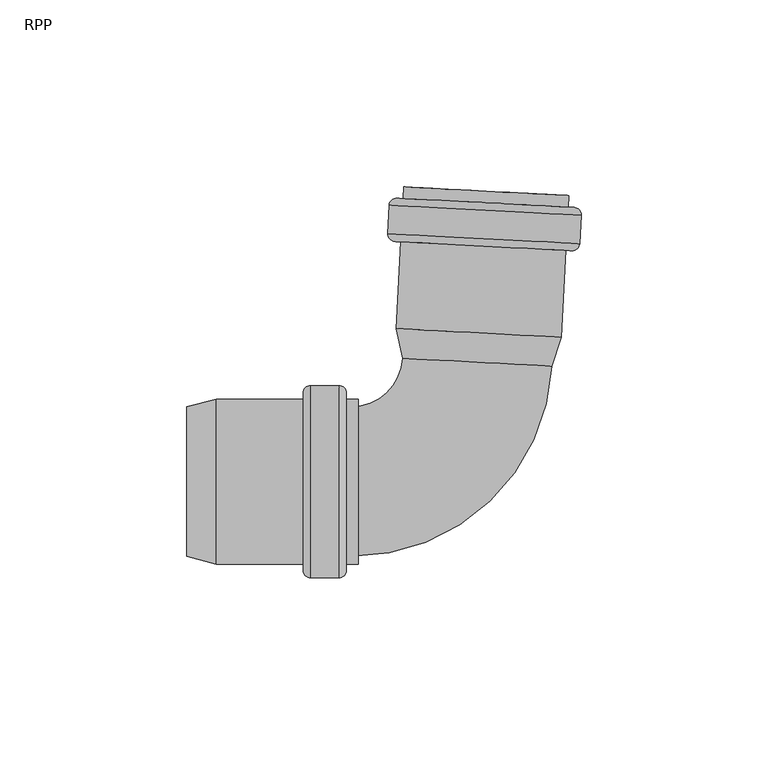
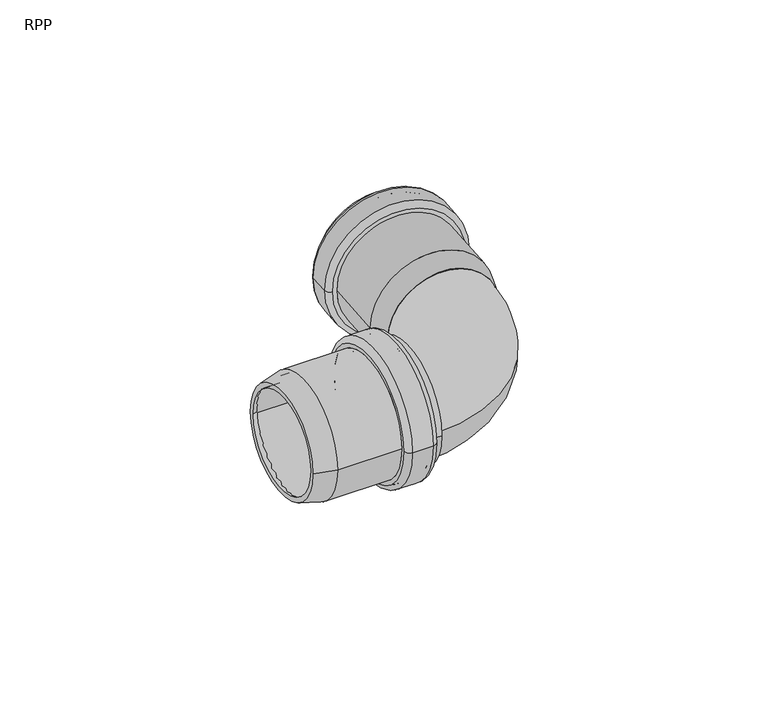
"""IFC4 building model written with IfcOpenShell, lengths in millimetres: pipe fitting geometry, RAUPIANO PLUS Bend : RPP."""

from ifc_helpers import new_model, si_unit, point, frame, origin, place, context, project, spatial, polyline, circle_curve, ellipse_curve, trimmed, source, transform, mapped, element, save
from ifc_brep_helpers import plane_surface, cylinder_surface, revolved_surface, advanced_brep


def rpp_bc04890f(model_context):
    return source(origin(), model_context, "Body", "AdvancedBrep", [
        advanced_brep(
        [(-43.1, -20.3, 0.0), (-43.1, 20.3, 0.0), (-67.9257188, 20.3, 0.0), (-67.9257188, -20.3, 0.0), (-42.6, -23.9, 0.0), (-42.6, 23.9, 0.0), (-43.1, 23.4, 0.0), (-43.1, -23.4, 0.0), (-35.6, -23.9, 0.0), (-35.6, 23.9, 0.0), (-35.1, -23.4, 0.0), (-35.1, 23.4, 0.0), (-30.2, -20.3, 0.0), (-30.2, 20.3, 0.0), (-35.1, 20.3, 0.0), (-35.1, -20.3, 0.0), (-33.3, -22.1, 0.0), (-33.3, 22.1, 0.0), (-30.2, 22.1, 0.0), (-30.2, -22.1, 0.0), (-35.3, -25.7, 0.0), (-35.3, 25.7, 0.0), (-33.3, 23.7, 0.0), (-33.3, -23.7, 0.0), (-42.9, -25.7, 0.0), (-42.9, 25.7, 0.0), (-44.9, -23.7, 0.0), (-44.9, 23.7, 0.0), (-68.1626933, -22.1, 0.0), (-68.1626933, 22.1, 0.0), (-44.9, 22.1, 0.0), (-44.9, -22.1, 0.0), (-76.0, -20.0, 0.0), (-76.0, 20.0, 0.0), (-76.0, 18.1365029, 0.0), (-76.0, -18.1365029, 0.0)],
        [
            (0, 1, circle_curve(frame((-43.1, 0.0, 0.0), z_axis=(1.0, 0.0, 0.0), x_axis=(0.0, 1.0, 0.0)), 20.3)),
            (1, 2),
            (2, 3, circle_curve(frame((-67.9257188, 0.0, 0.0), z_axis=(-1.0, 0.0, 0.0), x_axis=(0.0, 1.0, 0.0)), 20.3)),
            (3, 0),
            (4, 5, circle_curve(frame((-42.6, 0.0, 0.0), z_axis=(1.0, 0.0, 0.0), x_axis=(0.0, 1.0, 0.0)), 23.9)),
            (5, 6, circle_curve(frame((-42.6, 23.4, 0.0), z_axis=(0.0, 0.0, 1.0), x_axis=(0.0, -1.0, 0.0)), 0.5)),
            (6, 7, circle_curve(frame((-43.1, 0.0, 0.0), z_axis=(-1.0, 0.0, 0.0), x_axis=(0.0, 1.0, 0.0)), 23.4)),
            (7, 4, circle_curve(frame((-42.6, -23.4, 0.0), z_axis=(0.0, 0.0, 1.0), x_axis=(0.0, 1.0, 0.0)), 0.5)),
            (8, 9, circle_curve(frame((-35.6, 0.0, 0.0), z_axis=(1.0, 0.0, 0.0), x_axis=(0.0, 1.0, 0.0)), 23.9)),
            (9, 5),
            (4, 8),
            (10, 11, circle_curve(frame((-35.1, 0.0, 0.0), z_axis=(1.0, 0.0, 0.0), x_axis=(0.0, 1.0, 0.0)), 23.4)),
            (11, 9, circle_curve(frame((-35.6, 23.4, 0.0), z_axis=(0.0, 0.0, 1.0), x_axis=(0.0, -1.0, 0.0)), 0.5)),
            (8, 10, circle_curve(frame((-35.6, -23.4, 0.0), z_axis=(0.0, 0.0, 1.0), x_axis=(0.0, 1.0, 0.0)), 0.5)),
            (12, 13, circle_curve(frame((-30.2, 0.0, 0.0), z_axis=(1.0, 0.0, 0.0), x_axis=(0.0, 1.0, 0.0)), 20.3)),
            (13, 14),
            (14, 15, circle_curve(frame((-35.1, 0.0, 0.0), z_axis=(-1.0, 0.0, 0.0), x_axis=(0.0, 1.0, 0.0)), 20.3)),
            (15, 12),
            (16, 17, circle_curve(frame((-33.3, 0.0, 0.0), z_axis=(1.0, 0.0, 0.0), x_axis=(0.0, 1.0, 0.0)), 22.1)),
            (17, 18),
            (18, 19, circle_curve(frame((-30.2, 0.0, 0.0), z_axis=(-1.0, 0.0, 0.0), x_axis=(0.0, 1.0, 0.0)), 22.1)),
            (19, 16),
            (20, 21, circle_curve(frame((-35.3, 0.0, 0.0), z_axis=(1.0, 0.0, 0.0), x_axis=(0.0, 1.0, 0.0)), 25.7)),
            (21, 22, circle_curve(frame((-35.3, 23.7, 0.0), z_axis=(0.0, 0.0, -1.0), x_axis=(0.0, -1.0, 0.0)), 2.0)),
            (22, 23, circle_curve(frame((-33.3, 0.0, 0.0), z_axis=(-1.0, 0.0, 0.0), x_axis=(0.0, 1.0, 0.0)), 23.7)),
            (23, 20, circle_curve(frame((-35.3, -23.7, 0.0), z_axis=(0.0, 0.0, -1.0), x_axis=(0.0, 1.0, 0.0)), 2.0)),
            (24, 25, circle_curve(frame((-42.9, 0.0, 0.0), z_axis=(1.0, 0.0, 0.0), x_axis=(0.0, 1.0, 0.0)), 25.7)),
            (25, 21),
            (20, 24),
            (26, 27, circle_curve(frame((-44.9, 0.0, 0.0), z_axis=(1.0, 0.0, 0.0), x_axis=(0.0, 1.0, 0.0)), 23.7)),
            (27, 25, circle_curve(frame((-42.9, 23.7, 0.0), z_axis=(0.0, 0.0, -1.0), x_axis=(0.0, -1.0, 0.0)), 2.0)),
            (24, 26, circle_curve(frame((-42.9, -23.7, 0.0), z_axis=(0.0, 0.0, -1.0), x_axis=(0.0, 1.0, 0.0)), 2.0)),
            (28, 29, circle_curve(frame((-68.1626933, 0.0, 0.0), z_axis=(1.0, 0.0, 0.0), x_axis=(0.0, 1.0, 0.0)), 22.1)),
            (29, 30),
            (30, 31, circle_curve(frame((-44.9, 0.0, 0.0), z_axis=(-1.0, 0.0, 0.0), x_axis=(0.0, 1.0, 0.0)), 22.1)),
            (31, 28),
            (32, 33, circle_curve(frame((-76.0, 0.0, 0.0), z_axis=(1.0, 0.0, 0.0), x_axis=(0.0, 1.0, 0.0)), 20.0)),
            (33, 29),
            (28, 32),
            (2, 34),
            (34, 35, circle_curve(frame((-76.0, 0.0, 0.0), z_axis=(-1.0, 0.0, 0.0), x_axis=(0.0, 1.0, 0.0)), 18.1365029)),
            (35, 3),
            (1, 0, circle_curve(frame((-43.1, 0.0, 0.0), z_axis=(1.0, 0.0, 0.0), x_axis=(0.0, -1.0, 0.0)), 20.3)),
            (3, 2, circle_curve(frame((-67.9257188, 0.0, 0.0), z_axis=(-1.0, 0.0, 0.0), x_axis=(0.0, -1.0, 0.0)), 20.3)),
            (6, 7, circle_curve(frame((-43.1, 0.0, 0.0), z_axis=(1.0, 0.0, 0.0), x_axis=(0.0, -1.0, 0.0)), 23.4)),
            (5, 4, circle_curve(frame((-42.6, 0.0, 0.0), z_axis=(1.0, 0.0, 0.0), x_axis=(0.0, -1.0, 0.0)), 23.9)),
            (9, 8, circle_curve(frame((-35.6, 0.0, 0.0), z_axis=(1.0, 0.0, 0.0), x_axis=(0.0, -1.0, 0.0)), 23.9)),
            (11, 10, circle_curve(frame((-35.1, 0.0, 0.0), z_axis=(1.0, 0.0, 0.0), x_axis=(0.0, -1.0, 0.0)), 23.4)),
            (14, 15, circle_curve(frame((-35.1, 0.0, 0.0), z_axis=(1.0, 0.0, 0.0), x_axis=(0.0, -1.0, 0.0)), 20.3)),
            (13, 12, circle_curve(frame((-30.2, 0.0, 0.0), z_axis=(1.0, 0.0, 0.0), x_axis=(0.0, -1.0, 0.0)), 20.3)),
            (18, 19, circle_curve(frame((-30.2, 0.0, 0.0), z_axis=(1.0, 0.0, 0.0), x_axis=(0.0, -1.0, 0.0)), 22.1)),
            (17, 16, circle_curve(frame((-33.3, 0.0, 0.0), z_axis=(1.0, 0.0, 0.0), x_axis=(0.0, -1.0, 0.0)), 22.1)),
            (22, 23, circle_curve(frame((-33.3, 0.0, 0.0), z_axis=(1.0, 0.0, 0.0), x_axis=(0.0, -1.0, 0.0)), 23.7)),
            (21, 20, circle_curve(frame((-35.3, 0.0, 0.0), z_axis=(1.0, 0.0, 0.0), x_axis=(0.0, -1.0, 0.0)), 25.7)),
            (25, 24, circle_curve(frame((-42.9, 0.0, 0.0), z_axis=(1.0, 0.0, 0.0), x_axis=(0.0, -1.0, 0.0)), 25.7)),
            (27, 26, circle_curve(frame((-44.9, 0.0, 0.0), z_axis=(1.0, 0.0, 0.0), x_axis=(0.0, -1.0, 0.0)), 23.7)),
            (30, 31, circle_curve(frame((-44.9, 0.0, 0.0), z_axis=(1.0, 0.0, 0.0), x_axis=(0.0, -1.0, 0.0)), 22.1)),
            (29, 28, circle_curve(frame((-68.1626933, 0.0, 0.0), z_axis=(1.0, 0.0, 0.0), x_axis=(0.0, -1.0, 0.0)), 22.1)),
            (33, 32, circle_curve(frame((-76.0, 0.0, 0.0), z_axis=(1.0, 0.0, 0.0), x_axis=(0.0, -1.0, 0.0)), 20.0)),
            (34, 35, circle_curve(frame((-76.0, 0.0, 0.0), z_axis=(1.0, 0.0, 0.0), x_axis=(0.0, -1.0, 0.0)), 18.1365029)),
        ],
        [
            revolved_surface(polyline([(-67.9257188, 20.3, 0.0), (-43.1, 20.3, 0.0)]), (-76.0, 0.0, 0.0), (-1.0, 0.0, 0.0)),
            revolved_surface(trimmed(ellipse_curve(frame((-42.6, 23.4, 0.0), z_axis=(0.0, 0.0, -1.0), x_axis=(0.0, -1.0, 0.0)), 0.5, 0.5), [point((-43.1, 23.4, 0.0))], [point((-42.6, 23.9, 0.0))], True, "CARTESIAN"), (-76.0, 0.0, 0.0), (-1.0, 0.0, 0.0)),
            revolved_surface(polyline([(-42.6, 23.9, 0.0), (-35.6, 23.9, 0.0)]), (-76.0, 0.0, 0.0), (-1.0, 0.0, 0.0)),
            revolved_surface(trimmed(ellipse_curve(frame((-35.6, 23.4, 0.0), z_axis=(0.0, 0.0, -1.0), x_axis=(0.0, -1.0, 0.0)), 0.5, 0.5), [point((-35.6, 23.9, 0.0))], [point((-35.1, 23.4, 0.0))], True, "CARTESIAN"), (-76.0, 0.0, 0.0), (-1.0, 0.0, 0.0)),
            revolved_surface(polyline([(-35.1, 20.3, 0.0), (-30.200000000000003, 20.3, 0.0)]), (-76.0, 0.0, 0.0), (-1.0, 0.0, 0.0)),
            cylinder_surface(frame((-76.0, 0.0, 0.0), z_axis=(-1.0, 0.0, 0.0), x_axis=(0.0, 1.0, 0.0)), 22.1),
            revolved_surface(trimmed(ellipse_curve(frame((-35.3, 23.7, 0.0), z_axis=(0.0, 0.0, 1.0), x_axis=(0.0, -1.0, 0.0)), 2.0, 2.0), [point((-33.3, 23.7, 0.0))], [point((-35.3, 25.7, 0.0))], True, "CARTESIAN"), (-76.0, 0.0, 0.0), (-1.0, 0.0, 0.0)),
            cylinder_surface(frame((-76.0, 0.0, 0.0), z_axis=(-1.0, 0.0, 0.0), x_axis=(0.0, 1.0, 0.0)), 25.7),
            revolved_surface(trimmed(ellipse_curve(frame((-42.9, 23.7, 0.0), z_axis=(0.0, 0.0, 1.0), x_axis=(0.0, -1.0, 0.0)), 2.0, 2.0), [point((-42.9, 25.7, 0.0))], [point((-44.9, 23.7, 0.0))], True, "CARTESIAN"), (-76.0, 0.0, 0.0), (-1.0, 0.0, 0.0)),
            revolved_surface(polyline([(-68.1626933, 22.1, 0.0), (-76.0, 20.0, 0.0)]), (-76.0, 0.0, 0.0), (-1.0, 0.0, 0.0)),
            revolved_surface(polyline([(-76.0, 18.1365029, 0.0), (-67.9257188, 20.3, 0.0)]), (-76.0, 0.0, 0.0), (-1.0, 0.0, 0.0)),
            revolved_surface(polyline([(-67.9257188, -20.3, 0.0), (-43.1, -20.3, 0.0)]), (-76.0, 0.0, 0.0), (-1.0, 0.0, 0.0)),
            plane_surface(frame((-43.1, 0.0, 0.0), z_axis=(1.0, 0.0, 0.0), x_axis=(0.0, -1.0, 0.0))),
            revolved_surface(trimmed(ellipse_curve(frame((-42.6, -23.4, 0.0), z_axis=(0.0, 0.0, 1.0), x_axis=(0.0, 1.0, 0.0)), 0.5, 0.5), [point((-43.1, -23.4, 0.0))], [point((-42.6, -23.9, 0.0))], True, "CARTESIAN"), (-76.0, 0.0, 0.0), (-1.0, 0.0, 0.0)),
            revolved_surface(polyline([(-42.6, -23.9, 0.0), (-35.6, -23.9, 0.0)]), (-76.0, 0.0, 0.0), (-1.0, 0.0, 0.0)),
            revolved_surface(trimmed(ellipse_curve(frame((-35.6, -23.4, 0.0), z_axis=(0.0, 0.0, 1.0), x_axis=(0.0, 1.0, 0.0)), 0.5, 0.5), [point((-35.6, -23.9, 0.0))], [point((-35.1, -23.4, 0.0))], True, "CARTESIAN"), (-76.0, 0.0, 0.0), (-1.0, 0.0, 0.0)),
            plane_surface(frame((-35.1, 0.0, 0.0), z_axis=(-1.0, 0.0, 0.0), x_axis=(0.0, -1.0, 0.0))),
            revolved_surface(polyline([(-35.1, -20.3, 0.0), (-30.200000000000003, -20.3, 0.0)]), (-76.0, 0.0, 0.0), (-1.0, 0.0, 0.0)),
            plane_surface(frame((-30.2, 0.0, 0.0), z_axis=(1.0, 0.0, 0.0), x_axis=(0.0, -1.0, 0.0))),
            cylinder_surface(frame((-76.0, 0.0, 0.0), z_axis=(-1.0, 0.0, 0.0), x_axis=(0.0, -1.0, 0.0)), 22.1),
            plane_surface(frame((-33.3, 0.0, 0.0), z_axis=(1.0, 0.0, 0.0), x_axis=(0.0, -1.0, 0.0))),
            revolved_surface(trimmed(ellipse_curve(frame((-35.3, -23.7, 0.0), z_axis=(0.0, 0.0, -1.0), x_axis=(0.0, 1.0, 0.0)), 2.0, 2.0), [point((-33.3, -23.7, 0.0))], [point((-35.3, -25.7, 0.0))], True, "CARTESIAN"), (-76.0, 0.0, 0.0), (-1.0, 0.0, 0.0)),
            cylinder_surface(frame((-76.0, 0.0, 0.0), z_axis=(-1.0, 0.0, 0.0), x_axis=(0.0, -1.0, 0.0)), 25.7),
            revolved_surface(trimmed(ellipse_curve(frame((-42.9, -23.7, 0.0), z_axis=(0.0, 0.0, -1.0), x_axis=(0.0, 1.0, 0.0)), 2.0, 2.0), [point((-42.9, -25.7, 0.0))], [point((-44.9, -23.7, 0.0))], True, "CARTESIAN"), (-76.0, 0.0, 0.0), (-1.0, 0.0, 0.0)),
            plane_surface(frame((-44.9, 0.0, 0.0), z_axis=(-1.0, 0.0, 0.0), x_axis=(0.0, -1.0, 0.0))),
            revolved_surface(polyline([(-68.1626933, -22.1, 0.0), (-76.0, -20.0, 0.0)]), (-76.0, 0.0, 0.0), (-1.0, 0.0, 0.0)),
            plane_surface(frame((-76.0, 0.0, 0.0), z_axis=(-1.0, 0.0, 0.0), x_axis=(0.0, -1.0, 0.0))),
            revolved_surface(polyline([(-76.0, -18.1365029, 0.0), (-67.9257188, -20.3, 0.0)]), (-76.0, 0.0, 0.0), (-1.0, 0.0, 0.0)),
        ],
        [
            (0, [[1, 2, 3, 4]]),
            (1, [[5, 6, 7, 8]]),
            (2, [[9, 10, -5, 11]]),
            (3, [[12, 13, -9, 14]]),
            (4, [[15, 16, 17, 18]]),
            (5, [[19, 20, 21, 22]]),
            (6, [[23, 24, 25, 26]]),
            (7, [[27, 28, -23, 29]]),
            (8, [[30, 31, -27, 32]]),
            (5, [[33, 34, 35, 36]]),
            (9, [[37, 38, -33, 39]]),
            (10, [[-3, 40, 41, 42]]),
            (11, [[43, -4, 44, -2]]),
            (12, [[45, -7], [-43, -1]]),
            (13, [[46, -8, -45, -6]]),
            (14, [[47, -11, -46, -10]]),
            (15, [[48, -14, -47, -13]]),
            (16, [[-48, -12], [49, -17]]),
            (17, [[50, -18, -49, -16]]),
            (18, [[51, -21], [-50, -15]]),
            (19, [[52, -22, -51, -20]]),
            (20, [[53, -25], [-52, -19]]),
            (21, [[54, -26, -53, -24]]),
            (22, [[55, -29, -54, -28]]),
            (23, [[56, -32, -55, -31]]),
            (24, [[-56, -30], [57, -35]]),
            (19, [[58, -36, -57, -34]]),
            (25, [[59, -39, -58, -38]]),
            (26, [[-59, -37], [60, -41]]),
            (27, [[-44, -42, -60, -40]]),
        ],
    ),
        advanced_brep(
        [(19.786398, 31.0069539, 0.0), (-16.4368968, 32.9053363, 0.0), (-18.1748537, 41.0817807, 0.0), (22.3695054, 38.9569409, 0.0), (24.1546363, 38.6260864, 0.0), (-19.9847892, 40.9393357, 0.0), (-18.2978401, 33.0028642, 0.0), (21.6473413, 30.909426, 0.0), (25.3721116, 61.856899, 0.0), (-18.7673139, 64.1701483, 0.0), (29.4696031, 71.2553331, 0.0), (-21.859955, 73.9454013, 0.0), (-22.2577083, 66.3558168, 0.0), (29.0718498, 63.6657486, 0.0), (26.1414501, 76.5367532, 0.0), (-17.9979753, 78.8500024, 0.0), (-18.1602168, 75.7542509, 0.0), (25.9792086, 73.4410016, 0.0), (24.0874708, 71.7376732, 0.0), (-16.4568883, 73.862513, 0.0), (-16.2004422, 78.7557977, 0.0), (24.343917, 76.6309579, 0.0), (27.2900174, 64.0595422, 0.0), (-20.4444743, 66.5612009, 0.0), (-20.0781226, 73.5516077, 0.0), (27.6563691, 71.049949, 0.0), (-16.875576, 65.8734767, 0.0), (23.6687831, 63.7486369, 0.0), (-20.3651211, 64.2538858, 0.0), (26.9699188, 61.7731615, 0.0), (27.5770159, 73.3572641, 0.0), (-19.758024, 75.8379884, 0.0), (-19.5526399, 74.0247545, 0.0), (27.1832223, 71.5754317, 0.0), (26.7645347, 63.5863954, 0.0), (-19.9713276, 66.0357182, 0.0)],
        [
            (0, 1, circle_curve(frame((1.6747506, 31.9561451, 0.0), z_axis=(-0.05233595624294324, -0.9986295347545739, 0.0), x_axis=(-0.9986295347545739, 0.05233595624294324, 0.0)), 18.1365029)),
            (1, 2),
            (2, 3, circle_curve(frame((2.0973258, 40.0193608, 0.0), z_axis=(0.05233595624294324, 0.9986295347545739, 0.0), x_axis=(-0.9986295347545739, 0.05233595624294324, 0.0)), 20.3)),
            (3, 0),
            (4, 5, circle_curve(frame((2.0849235, 39.7827111, 0.0), z_axis=(-0.05233595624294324, -0.9986295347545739, 0.0), x_axis=(-0.9986295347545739, 0.05233595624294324, 0.0)), 22.1)),
            (5, 6),
            (6, 7, circle_curve(frame((1.6747506, 31.9561451, 0.0), z_axis=(0.05233595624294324, 0.9986295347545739, 0.0), x_axis=(-0.9986295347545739, 0.05233595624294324, 0.0)), 20.0)),
            (7, 4),
            (8, 9, circle_curve(frame((3.3023988, 63.0135236, 0.0), z_axis=(-0.05233595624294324, -0.9986295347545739, 0.0), x_axis=(-0.9986295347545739, 0.05233595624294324, 0.0)), 22.1)),
            (9, 5),
            (4, 8),
            (10, 11, circle_curve(frame((3.804824, 72.6003672, 0.0), z_axis=(-0.05233595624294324, -0.9986295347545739, 0.0), x_axis=(-0.9986295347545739, 0.05233595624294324, 0.0)), 25.7)),
            (11, 12),
            (12, 13, circle_curve(frame((3.4070708, 65.0107827, 0.0), z_axis=(0.05233595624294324, 0.9986295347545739, 0.0), x_axis=(-0.9986295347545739, 0.05233595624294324, 0.0)), 25.7)),
            (13, 10),
            (14, 15, circle_curve(frame((4.0717374, 77.6933778, 0.0), z_axis=(-0.05233595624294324, -0.9986295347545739, 0.0), x_axis=(-0.9986295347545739, 0.05233595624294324, 0.0)), 22.1)),
            (15, 16),
            (16, 17, circle_curve(frame((3.9094959, 74.5976262, 0.0), z_axis=(0.05233595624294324, 0.9986295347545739, 0.0), x_axis=(-0.9986295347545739, 0.05233595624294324, 0.0)), 22.1)),
            (17, 14),
            (18, 19, circle_curve(frame((3.8152912, 72.8000931, 0.0), z_axis=(-0.05233595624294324, -0.9986295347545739, 0.0), x_axis=(-0.9986295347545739, 0.05233595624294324, 0.0)), 20.3)),
            (19, 20),
            (20, 21, circle_curve(frame((4.0717374, 77.6933778, 0.0), z_axis=(0.05233595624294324, 0.9986295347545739, 0.0), x_axis=(-0.9986295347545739, 0.05233595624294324, 0.0)), 20.3)),
            (21, 18),
            (22, 23, circle_curve(frame((3.4227715, 65.3103716, 0.0), z_axis=(-0.05233595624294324, -0.9986295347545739, 0.0), x_axis=(-0.9986295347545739, 0.05233595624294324, 0.0)), 23.9)),
            (23, 24),
            (24, 25, circle_curve(frame((3.7891232, 72.3007783, 0.0), z_axis=(0.05233595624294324, 0.9986295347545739, 0.0), x_axis=(-0.9986295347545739, 0.05233595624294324, 0.0)), 23.9)),
            (25, 22),
            (2, 26),
            (26, 27, circle_curve(frame((3.3966036, 64.8110568, 0.0), z_axis=(0.05233595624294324, 0.9986295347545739, 0.0), x_axis=(-0.9986295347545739, 0.05233595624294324, 0.0)), 20.3)),
            (27, 3),
            (1, 0, circle_curve(frame((1.6747506, 31.9561451, 0.0), z_axis=(-0.05233595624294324, -0.9986295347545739, 0.0), x_axis=(0.9986295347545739, -0.05233595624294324, 0.0)), 18.1365029)),
            (3, 2, circle_curve(frame((2.0973258, 40.0193608, 0.0), z_axis=(0.05233595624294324, 0.9986295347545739, 0.0), x_axis=(0.9986295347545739, -0.05233595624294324, 0.0)), 20.3)),
            (6, 7, circle_curve(frame((1.6747506, 31.9561451, 0.0), z_axis=(-0.05233595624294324, -0.9986295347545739, 0.0), x_axis=(0.9986295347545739, -0.05233595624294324, 0.0)), 20.0)),
            (5, 4, circle_curve(frame((2.0849235, 39.7827111, 0.0), z_axis=(-0.05233595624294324, -0.9986295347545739, 0.0), x_axis=(0.9986295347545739, -0.05233595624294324, 0.0)), 22.1)),
            (9, 8, circle_curve(frame((3.3023988, 63.0135236, 0.0), z_axis=(-0.05233595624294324, -0.9986295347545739, 0.0), x_axis=(0.9986295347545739, -0.05233595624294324, 0.0)), 22.1)),
            (28, 29, circle_curve(frame((3.3023988, 63.0135236, 0.0), z_axis=(-0.05233595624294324, -0.9986295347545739, 0.0), x_axis=(0.9986295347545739, -0.05233595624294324, 0.0)), 23.7)),
            (29, 28, circle_curve(frame((3.3023988, 63.0135236, 0.0), z_axis=(-0.05233595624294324, -0.9986295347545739, 0.0), x_axis=(-0.9986295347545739, 0.05233595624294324, 0.0)), 23.7)),
            (11, 10, circle_curve(frame((3.804824, 72.6003672, 0.0), z_axis=(-0.05233595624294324, -0.9986295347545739, 0.0), x_axis=(0.9986295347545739, -0.05233595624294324, 0.0)), 25.7)),
            (13, 12, circle_curve(frame((3.4070708, 65.0107827, 0.0), z_axis=(0.05233595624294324, 0.9986295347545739, 0.0), x_axis=(0.9986295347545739, -0.05233595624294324, 0.0)), 25.7)),
            (30, 31, circle_curve(frame((3.9094959, 74.5976262, 0.0), z_axis=(0.05233595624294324, 0.9986295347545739, 0.0), x_axis=(0.9986295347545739, -0.05233595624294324, 0.0)), 23.7)),
            (31, 30, circle_curve(frame((3.9094959, 74.5976262, 0.0), z_axis=(0.05233595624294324, 0.9986295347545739, 0.0), x_axis=(-0.9986295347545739, 0.05233595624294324, 0.0)), 23.7)),
            (16, 17, circle_curve(frame((3.9094959, 74.5976262, 0.0), z_axis=(-0.05233595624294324, -0.9986295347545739, 0.0), x_axis=(0.9986295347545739, -0.05233595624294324, 0.0)), 22.1)),
            (15, 14, circle_curve(frame((4.0717374, 77.6933778, 0.0), z_axis=(-0.05233595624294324, -0.9986295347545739, 0.0), x_axis=(0.9986295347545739, -0.05233595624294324, 0.0)), 22.1)),
            (20, 21, circle_curve(frame((4.0717374, 77.6933778, 0.0), z_axis=(-0.05233595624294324, -0.9986295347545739, 0.0), x_axis=(0.9986295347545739, -0.05233595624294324, 0.0)), 20.3)),
            (19, 18, circle_curve(frame((3.8152912, 72.8000931, 0.0), z_axis=(-0.05233595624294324, -0.9986295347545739, 0.0), x_axis=(0.9986295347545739, -0.05233595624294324, 0.0)), 20.3)),
            (32, 33, circle_curve(frame((3.8152912, 72.8000931, 0.0), z_axis=(-0.05233595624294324, -0.9986295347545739, 0.0), x_axis=(0.9986295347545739, -0.05233595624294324, 0.0)), 23.4)),
            (33, 32, circle_curve(frame((3.8152912, 72.8000931, 0.0), z_axis=(-0.05233595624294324, -0.9986295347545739, 0.0), x_axis=(-0.9986295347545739, 0.05233595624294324, 0.0)), 23.4)),
            (23, 22, circle_curve(frame((3.4227715, 65.3103716, 0.0), z_axis=(-0.05233595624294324, -0.9986295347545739, 0.0), x_axis=(0.9986295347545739, -0.05233595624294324, 0.0)), 23.9)),
            (25, 24, circle_curve(frame((3.7891232, 72.3007783, 0.0), z_axis=(0.05233595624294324, 0.9986295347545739, 0.0), x_axis=(0.9986295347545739, -0.05233595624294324, 0.0)), 23.9)),
            (34, 35, circle_curve(frame((3.3966036, 64.8110568, 0.0), z_axis=(0.05233595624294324, 0.9986295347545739, 0.0), x_axis=(0.9986295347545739, -0.05233595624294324, 0.0)), 23.4)),
            (35, 34, circle_curve(frame((3.3966036, 64.8110568, 0.0), z_axis=(0.05233595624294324, 0.9986295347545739, 0.0), x_axis=(-0.9986295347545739, 0.05233595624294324, 0.0)), 23.4)),
            (26, 27, circle_curve(frame((3.3966036, 64.8110568, 0.0), z_axis=(-0.05233595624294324, -0.9986295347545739, 0.0), x_axis=(0.9986295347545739, -0.05233595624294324, 0.0)), 20.3)),
            (12, 28, circle_curve(frame((-20.2604492, 66.2511449, 0.0), z_axis=(0.0, 0.0, 1.0), x_axis=(0.9986295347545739, -0.05233595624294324, 0.0)), 2.0)),
            (29, 13, circle_curve(frame((27.0745907, 63.7704205, 0.0), z_axis=(0.0, 0.0, 1.0), x_axis=(-0.9986295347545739, 0.05233595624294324, 0.0)), 2.0)),
            (31, 11, circle_curve(frame((-19.862696, 73.8407293, 0.0), z_axis=(0.0, 0.0, 1.0), x_axis=(0.9986295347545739, -0.05233595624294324, 0.0)), 2.0)),
            (10, 30, circle_curve(frame((27.472344, 71.360005, 0.0), z_axis=(0.0, 0.0, 1.0), x_axis=(-0.9986295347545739, 0.05233595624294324, 0.0)), 2.0)),
            (24, 32, circle_curve(frame((-19.5788079, 73.5254397, 0.0), z_axis=(0.0, 0.0, -1.0), x_axis=(0.9986295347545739, -0.05233595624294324, 0.0)), 0.5)),
            (33, 25, circle_curve(frame((27.1570543, 71.0761169, 0.0), z_axis=(0.0, 0.0, -1.0), x_axis=(-0.9986295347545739, 0.05233595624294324, 0.0)), 0.5)),
            (35, 23, circle_curve(frame((-19.9451596, 66.5350329, 0.0), z_axis=(0.0, 0.0, -1.0), x_axis=(0.9986295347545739, -0.05233595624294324, 0.0)), 0.5)),
            (22, 34, circle_curve(frame((26.7907027, 64.0857102, 0.0), z_axis=(0.0, 0.0, -1.0), x_axis=(-0.9986295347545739, 0.05233595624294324, 0.0)), 0.5)),
        ],
        [
            revolved_surface(polyline([(-18.1748537, 41.0817807, 0.0), (-16.4368968, 32.9053363, 0.0)]), (1.6747506, 31.9561451, 0.0), (0.05233595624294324, 0.9986295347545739, 0.0)),
            revolved_surface(polyline([(-18.2978401, 33.0028642, 0.0), (-19.9847892, 40.9393357, 0.0)]), (1.6747506, 31.9561451, 0.0), (0.05233595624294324, 0.9986295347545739, 0.0)),
            cylinder_surface(frame((1.6747506, 31.9561451, 0.0), z_axis=(0.05233595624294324, 0.9986295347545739, 0.0), x_axis=(-0.9986295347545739, 0.05233595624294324, 0.0)), 22.1),
            cylinder_surface(frame((1.6747506, 31.9561451, 0.0), z_axis=(0.05233595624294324, 0.9986295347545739, 0.0), x_axis=(-0.9986295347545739, 0.05233595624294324, 0.0)), 25.7),
            revolved_surface(polyline([(-16.20044215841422, 78.75579772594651, 0.0), (-16.456888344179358, 73.86251300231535, 0.0)]), (1.6747506, 31.9561451, 0.0), (0.05233595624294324, 0.9986295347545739, 0.0)),
            revolved_surface(polyline([(-20.078122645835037, 73.55160770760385, 0.0), (-20.444474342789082, 66.56120090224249, 0.0)]), (1.6747506, 31.9561451, 0.0), (0.05233595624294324, 0.9986295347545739, 0.0)),
            revolved_surface(polyline([(-16.875575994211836, 65.87347672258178, 0.0), (-18.174853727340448, 41.08178070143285, 0.0)]), (1.6747506, 31.9561451, 0.0), (0.05233595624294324, 0.9986295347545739, 0.0)),
            revolved_surface(polyline([(22.3695054, 38.9569409, 0.0), (19.786398, 31.0069539, 0.0)]), (1.6747506, 31.9561451, 0.0), (0.05233595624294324, 0.9986295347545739, 0.0)),
            plane_surface(frame((1.6747506, 31.9561451, 0.0), z_axis=(-0.05233595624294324, -0.9986295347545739, 0.0), x_axis=(0.9986295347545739, -0.05233595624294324, 0.0))),
            revolved_surface(polyline([(21.6473413, 30.909426, 0.0), (24.1546363, 38.6260864, 0.0)]), (1.6747506, 31.9561451, 0.0), (0.05233595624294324, 0.9986295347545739, 0.0)),
            cylinder_surface(frame((1.6747506, 31.9561451, 0.0), z_axis=(0.05233595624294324, 0.9986295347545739, 0.0), x_axis=(0.9986295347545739, -0.05233595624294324, 0.0)), 22.1),
            plane_surface(frame((3.3023988, 63.0135236, 0.0), z_axis=(-0.05233595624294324, -0.9986295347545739, 0.0), x_axis=(0.9986295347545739, -0.05233595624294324, 0.0))),
            cylinder_surface(frame((1.6747506, 31.9561451, 0.0), z_axis=(0.05233595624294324, 0.9986295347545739, 0.0), x_axis=(0.9986295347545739, -0.05233595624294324, 0.0)), 25.7),
            plane_surface(frame((3.9094959, 74.5976262, 0.0), z_axis=(0.05233595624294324, 0.9986295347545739, 0.0), x_axis=(0.9986295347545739, -0.05233595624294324, 0.0))),
            plane_surface(frame((4.0717374, 77.6933778, 0.0), z_axis=(0.05233595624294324, 0.9986295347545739, 0.0), x_axis=(0.9986295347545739, -0.05233595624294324, 0.0))),
            revolved_surface(polyline([(24.343916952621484, 76.630957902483, 0.0), (24.087470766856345, 71.73767317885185, 0.0)]), (1.6747506, 31.9561451, 0.0), (0.05233595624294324, 0.9986295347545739, 0.0)),
            plane_surface(frame((3.8152912, 72.8000931, 0.0), z_axis=(-0.05233595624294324, -0.9986295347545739, 0.0), x_axis=(0.9986295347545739, -0.05233595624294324, 0.0))),
            revolved_surface(polyline([(27.65636911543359, 71.04994899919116, 0.0), (27.290017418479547, 64.0595421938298, 0.0)]), (1.6747506, 31.9561451, 0.0), (0.05233595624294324, 0.9986295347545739, 0.0)),
            plane_surface(frame((3.3966036, 64.8110568, 0.0), z_axis=(0.05233595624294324, 0.9986295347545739, 0.0), x_axis=(0.9986295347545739, -0.05233595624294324, 0.0))),
            revolved_surface(polyline([(23.668783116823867, 63.748636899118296, 0.0), (22.369505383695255, 38.95694087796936, 0.0)]), (1.6747506, 31.9561451, 0.0), (0.05233595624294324, 0.9986295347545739, 0.0)),
            revolved_surface(trimmed(ellipse_curve(frame((-20.2604492, 66.2511449, 0.0), z_axis=(0.0, 0.0, -1.0), x_axis=(0.9986295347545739, -0.05233595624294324, 0.0)), 2.0, 2.0), [point((-20.3651211, 64.2538858, 0.0))], [point((-22.2577083, 66.3558168, 0.0))], True, "CARTESIAN"), (1.6747506, 31.9561451, 0.0), (0.05233595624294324, 0.9986295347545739, 0.0)),
            revolved_surface(trimmed(ellipse_curve(frame((-19.862696, 73.8407293, 0.0), z_axis=(0.0, 0.0, -1.0), x_axis=(0.9986295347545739, -0.05233595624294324, 0.0)), 2.0, 2.0), [point((-21.859955, 73.9454013, 0.0))], [point((-19.758024, 75.8379884, 0.0))], True, "CARTESIAN"), (1.6747506, 31.9561451, 0.0), (0.05233595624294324, 0.9986295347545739, 0.0)),
            revolved_surface(trimmed(ellipse_curve(frame((-19.5788079, 73.5254397, 0.0), z_axis=(0.0, 0.0, 1.0), x_axis=(0.9986295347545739, -0.05233595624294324, 0.0)), 0.5, 0.5), [point((-19.5526399, 74.0247545, 0.0))], [point((-20.0781226, 73.5516077, 0.0))], True, "CARTESIAN"), (1.6747506, 31.9561451, 0.0), (0.05233595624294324, 0.9986295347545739, 0.0)),
            revolved_surface(trimmed(ellipse_curve(frame((-19.9451596, 66.5350329, 0.0), z_axis=(0.0, 0.0, 1.0), x_axis=(0.9986295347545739, -0.05233595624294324, 0.0)), 0.5, 0.5), [point((-20.4444743, 66.5612009, 0.0))], [point((-19.9713276, 66.0357182, 0.0))], True, "CARTESIAN"), (1.6747506, 31.9561451, 0.0), (0.05233595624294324, 0.9986295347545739, 0.0)),
            revolved_surface(trimmed(ellipse_curve(frame((27.0745907, 63.7704205, 0.0), z_axis=(0.0, 0.0, 1.0), x_axis=(-0.9986295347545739, 0.05233595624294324, 0.0)), 2.0, 2.0), [point((26.9699188, 61.7731615, 0.0))], [point((29.0718498, 63.6657486, 0.0))], True, "CARTESIAN"), (1.6747506, 31.9561451, 0.0), (0.05233595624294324, 0.9986295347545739, 0.0)),
            revolved_surface(trimmed(ellipse_curve(frame((27.472344, 71.360005, 0.0), z_axis=(0.0, 0.0, 1.0), x_axis=(-0.9986295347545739, 0.05233595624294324, 0.0)), 2.0, 2.0), [point((29.4696031, 71.2553331, 0.0))], [point((27.5770159, 73.3572641, 0.0))], True, "CARTESIAN"), (1.6747506, 31.9561451, 0.0), (0.05233595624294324, 0.9986295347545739, 0.0)),
            revolved_surface(trimmed(ellipse_curve(frame((27.1570543, 71.0761169, 0.0), z_axis=(0.0, 0.0, -1.0), x_axis=(-0.9986295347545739, 0.05233595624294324, 0.0)), 0.5, 0.5), [point((27.1832223, 71.5754317, 0.0))], [point((27.6563691, 71.049949, 0.0))], True, "CARTESIAN"), (1.6747506, 31.9561451, 0.0), (0.05233595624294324, 0.9986295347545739, 0.0)),
            revolved_surface(trimmed(ellipse_curve(frame((26.7907027, 64.0857102, 0.0), z_axis=(0.0, 0.0, -1.0), x_axis=(-0.9986295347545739, 0.05233595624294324, 0.0)), 0.5, 0.5), [point((27.2900174, 64.0595422, 0.0))], [point((26.7645347, 63.5863954, 0.0))], True, "CARTESIAN"), (1.6747506, 31.9561451, 0.0), (0.05233595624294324, 0.9986295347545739, 0.0)),
        ],
        [
            (0, [[1, 2, 3, 4]]),
            (1, [[5, 6, 7, 8]]),
            (2, [[9, 10, -5, 11]]),
            (3, [[12, 13, 14, 15]]),
            (2, [[16, 17, 18, 19]]),
            (4, [[20, 21, 22, 23]]),
            (5, [[24, 25, 26, 27]]),
            (6, [[-3, 28, 29, 30]]),
            (7, [[31, -4, 32, -2]]),
            (8, [[33, -7], [-31, -1]]),
            (9, [[34, -8, -33, -6]]),
            (10, [[35, -11, -34, -10]]),
            (11, [[36, 37], [-35, -9]]),
            (12, [[38, -15, 39, -13]]),
            (13, [[40, 41], [42, -18]]),
            (10, [[43, -19, -42, -17]]),
            (14, [[-43, -16], [44, -22]]),
            (15, [[45, -23, -44, -21]]),
            (16, [[46, 47], [-45, -20]]),
            (17, [[48, -27, 49, -25]]),
            (18, [[50, 51], [52, -29]]),
            (19, [[-32, -30, -52, -28]]),
            (20, [[-14, 53, -37, 54]]),
            (21, [[-41, 55, -12, 56]]),
            (22, [[-26, 57, -47, 58]]),
            (23, [[-51, 59, -24, 60]]),
            (24, [[-39, -54, -36, -53]]),
            (25, [[-40, -56, -38, -55]]),
            (26, [[-49, -58, -46, -57]]),
            (27, [[-50, -60, -48, -59]]),
        ],
    ),
        advanced_brep(
        [(-32.0, 18.2, 0.0), (-32.0, -18.2, 0.0), (-76.0, -18.2, 0.0), (-76.0, 18.2, 0.0), (-72.2679492, 20.0, 0.0), (-72.2679492, -20.0, 0.0), (-32.0, -20.0, 0.0), (-32.0, 20.0, 0.0), (-76.0, 19.0, 0.0), (-76.0, -19.0, 0.0)],
        [
            (0, 1, circle_curve(frame((-32.0, 0.0, 0.0), z_axis=(1.0, 0.0, 0.0), x_axis=(0.0, -1.0, 0.0)), 18.2)),
            (1, 2),
            (2, 3, circle_curve(frame((-76.0, 0.0, 0.0), z_axis=(-1.0, 0.0, 0.0), x_axis=(0.0, -1.0, 0.0)), 18.2)),
            (3, 0),
            (4, 5, circle_curve(frame((-72.2679492, 0.0, 0.0), z_axis=(1.0, 0.0, 0.0), x_axis=(0.0, -1.0, 0.0)), 20.0)),
            (5, 6),
            (6, 7, circle_curve(frame((-32.0, 0.0, 0.0), z_axis=(-1.0, 0.0, 0.0), x_axis=(0.0, -1.0, 0.0)), 20.0)),
            (7, 4),
            (8, 9, circle_curve(frame((-76.0, 0.0, 0.0), z_axis=(1.0, 0.0, 0.0), x_axis=(0.0, -1.0, 0.0)), 19.0)),
            (9, 5),
            (4, 8),
            (1, 0, circle_curve(frame((-32.0, 0.0, 0.0), z_axis=(1.0, 0.0, 0.0), x_axis=(0.0, 1.0, 0.0)), 18.2)),
            (3, 2, circle_curve(frame((-76.0, 0.0, 0.0), z_axis=(-1.0, 0.0, 0.0), x_axis=(0.0, 1.0, 0.0)), 18.2)),
            (6, 7, circle_curve(frame((-32.0, 0.0, 0.0), z_axis=(1.0, 0.0, 0.0), x_axis=(0.0, 1.0, 0.0)), 20.0)),
            (5, 4, circle_curve(frame((-72.2679492, 0.0, 0.0), z_axis=(1.0, 0.0, 0.0), x_axis=(0.0, 1.0, 0.0)), 20.0)),
            (9, 8, circle_curve(frame((-76.0, 0.0, 0.0), z_axis=(1.0, 0.0, 0.0), x_axis=(0.0, 1.0, 0.0)), 19.0)),
        ],
        [
            revolved_surface(polyline([(-76.0, -18.2, 0.0), (-32.0, -18.2, 0.0)]), (-32.0, 0.0, 0.0), (-1.0, 0.0, 0.0)),
            cylinder_surface(frame((-32.0, 0.0, 0.0), z_axis=(-1.0, 0.0, 0.0), x_axis=(0.0, -1.0, 0.0)), 20.0),
            revolved_surface(polyline([(-72.2679492, -20.0, 0.0), (-76.0, -19.0, 0.0)]), (-32.0, 0.0, 0.0), (-1.0, 0.0, 0.0)),
            revolved_surface(polyline([(-76.0, 18.2, 0.0), (-32.0, 18.2, 0.0)]), (-32.0, 0.0, 0.0), (-1.0, 0.0, 0.0)),
            plane_surface(frame((-32.0, 0.0, 0.0), z_axis=(1.0, 0.0, 0.0), x_axis=(0.0, 1.0, 0.0))),
            cylinder_surface(frame((-32.0, 0.0, 0.0), z_axis=(-1.0, 0.0, 0.0), x_axis=(0.0, 1.0, 0.0)), 20.0),
            revolved_surface(polyline([(-72.2679492, 20.0, 0.0), (-76.0, 19.0, 0.0)]), (-32.0, 0.0, 0.0), (-1.0, 0.0, 0.0)),
            plane_surface(frame((-76.0, 0.0, 0.0), z_axis=(-1.0, 0.0, 0.0), x_axis=(0.0, 1.0, 0.0))),
        ],
        [
            (0, [[1, 2, 3, 4]]),
            (1, [[5, 6, 7, 8]]),
            (2, [[9, 10, -5, 11]]),
            (3, [[12, -4, 13, -2]]),
            (4, [[14, -7], [-12, -1]]),
            (5, [[15, -8, -14, -6]]),
            (6, [[16, -11, -15, -10]]),
            (7, [[-16, -9], [-13, -3]]),
        ],
    ),
        advanced_brep(
        [(-32.0, -20.0, 0.0), (-32.0, 20.0, 0.0), (-32.0, -18.2, 0.0), (-32.0, 18.2, 0.0), (21.6473413, 30.909426, 0.0), (-18.2978401, 33.0028642, 0.0), (19.8498081, 31.0036307, 0.0), (-16.5003069, 32.9086595, 0.0)],
        [
            (0, 1, circle_curve(frame((-32.0, 0.0, 0.0), z_axis=(-1.0, 0.0, 0.0), x_axis=(0.0, 1.0, 0.0)), 20.0)),
            (1, 0, circle_curve(frame((-32.0, 0.0, 0.0), z_axis=(-1.0, 0.0, 0.0), x_axis=(0.0, 1.0, 0.0)), 20.0)),
            (2, 3, circle_curve(frame((-32.0, 0.0, 0.0), z_axis=(1.0, 0.0, 0.0), x_axis=(0.0, 1.0, 0.0)), 18.2)),
            (3, 2, circle_curve(frame((-32.0, 0.0, 0.0), z_axis=(1.0, 0.0, 0.0), x_axis=(0.0, 1.0, 0.0)), 18.2)),
            (4, 5, circle_curve(frame((1.6747506, 31.9561451, 0.0), z_axis=(0.05233595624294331, 0.9986295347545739, 0.0), x_axis=(-0.9986295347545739, 0.05233595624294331, 0.0)), 20.0)),
            (5, 4, circle_curve(frame((1.6747506, 31.9561451, 0.0), z_axis=(0.05233595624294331, 0.9986295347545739, 0.0), x_axis=(-0.9986295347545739, 0.05233595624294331, 0.0)), 20.0)),
            (6, 7, circle_curve(frame((1.6747506, 31.9561451, 0.0), z_axis=(-0.05233595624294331, -0.9986295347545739, 0.0), x_axis=(-0.9986295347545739, 0.05233595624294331, 0.0)), 18.2)),
            (7, 6, circle_curve(frame((1.6747506, 31.9561451, 0.0), z_axis=(-0.05233595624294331, -0.9986295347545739, 0.0), x_axis=(-0.9986295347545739, 0.05233595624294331, 0.0)), 18.2)),
            (7, 3, circle_curve(frame((-32.0, 33.720964, 0.0), z_axis=(0.0, 0.0, -1.0), x_axis=(0.0, -1.0, 0.0)), 15.520964)),
            (2, 6, circle_curve(frame((-32.0, 33.720964, 0.0), z_axis=(0.0, 0.0, 1.0), x_axis=(0.0, -1.0, 0.0)), 51.920964)),
            (5, 1, circle_curve(frame((-32.0, 33.720964, 0.0), z_axis=(0.0, 0.0, -1.0), x_axis=(0.0, -1.0, 0.0)), 13.720964)),
            (0, 4, circle_curve(frame((-32.0, 33.720964, 0.0), z_axis=(0.0, 0.0, 1.0), x_axis=(0.0, -1.0, 0.0)), 53.720964)),
        ],
        [
            plane_surface(frame((-32.0, 0.0, 0.0), z_axis=(-1.0, 0.0, 0.0), x_axis=(0.0, 0.0, 1.0))),
            plane_surface(frame((1.6747506, 31.9561451, 0.0), z_axis=(0.05233595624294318, 0.9986295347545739, 0.0), x_axis=(0.0, 0.0, 1.0))),
            revolved_surface(trimmed(ellipse_curve(frame((-32.0, 0.0, 0.0), z_axis=(1.0, 0.0, 0.0), x_axis=(0.0, 1.0, 0.0)), 18.2, 18.2), [point((-32.0, -18.2, 0.0))], [point((-32.0, 18.2, 0.0))], True, "CARTESIAN"), (-32.0, 33.720964, 0.0), (0.0, 0.0, 1.0)),
            revolved_surface(trimmed(ellipse_curve(frame((-32.0, 0.0, 0.0), z_axis=(1.0, 0.0, 0.0), x_axis=(0.0, 1.0, 0.0)), 18.2, 18.2), [point((-32.0, 18.2, 0.0))], [point((-32.0, -18.2, 0.0))], True, "CARTESIAN"), (-32.0, 33.720964, 0.0), (0.0, 0.0, 1.0)),
            revolved_surface(trimmed(ellipse_curve(frame((-32.0, 0.0, 0.0), z_axis=(-1.0, 0.0, 0.0), x_axis=(0.0, 1.0, 0.0)), 20.0, 20.0), [point((-32.0, -20.0, 0.0))], [point((-32.0, 20.0, 0.0))], True, "CARTESIAN"), (-32.0, 33.720964, 0.0), (0.0, 0.0, 1.0)),
            revolved_surface(trimmed(ellipse_curve(frame((-32.0, 0.0, 0.0), z_axis=(-1.0, 0.0, 0.0), x_axis=(0.0, 1.0, 0.0)), 20.0, 20.0), [point((-32.0, 20.0, 0.0))], [point((-32.0, -20.0, 0.0))], True, "CARTESIAN"), (-32.0, 33.720964, 0.0), (0.0, 0.0, 1.0)),
        ],
        [
            (0, [[1, 2], [3, 4]]),
            (1, [[5, 6], [7, 8]]),
            (2, [[9, -3, 10, -8]]),
            (3, [[-10, -4, -9, -7]]),
            (4, [[11, -1, 12, -6]]),
            (5, [[-12, -2, -11, -5]]),
        ],
    ),
    ])


if __name__ == "__main__":
    model = new_model("IFC4")
    model_context = context("Model", 3, world=origin())
    ifc_project = project(units=[si_unit("LENGTHUNIT", "METRE", prefix="MILLI")], contexts=[model_context])
    site = spatial("IfcSite", under=ifc_project)
    building = spatial("IfcBuilding", under=site)
    placement = place(None, origin())
    rpp_shape = rpp_bc04890f(model_context)
    element("IfcPipeFitting", 1, ObjectType="RAUPIANO PLUS Bend : RPP", at=placement, inside=building, context=model_context, shape_type="MappedRepresentation", body=[
        mapped(rpp_shape, transform((0.0, 0.0, 0.0), x_axis=(1.0, 0.0, 0.0), y_axis=(0.0, 1.0, 0.0), z_axis=(0.0, 0.0, 1.0))),
    ])
    save(model, "model.ifc")
